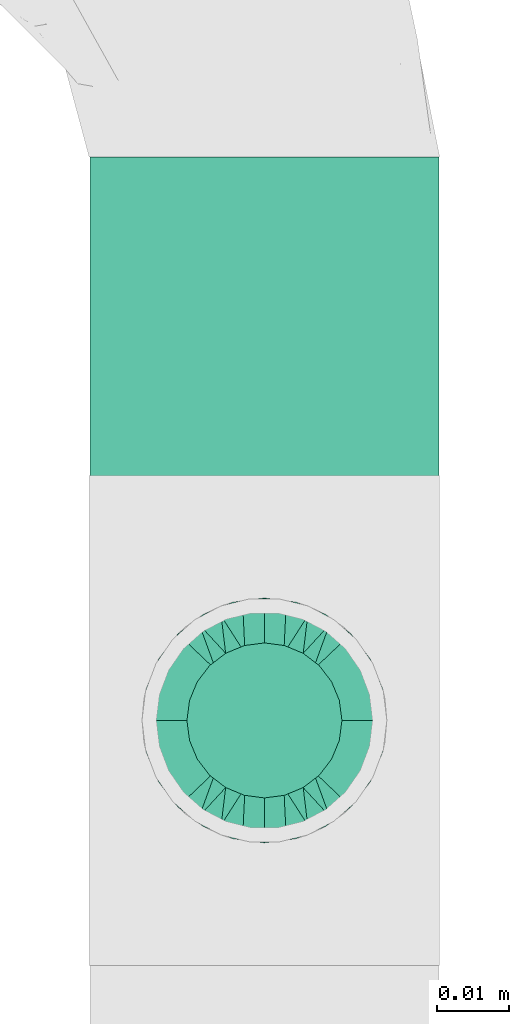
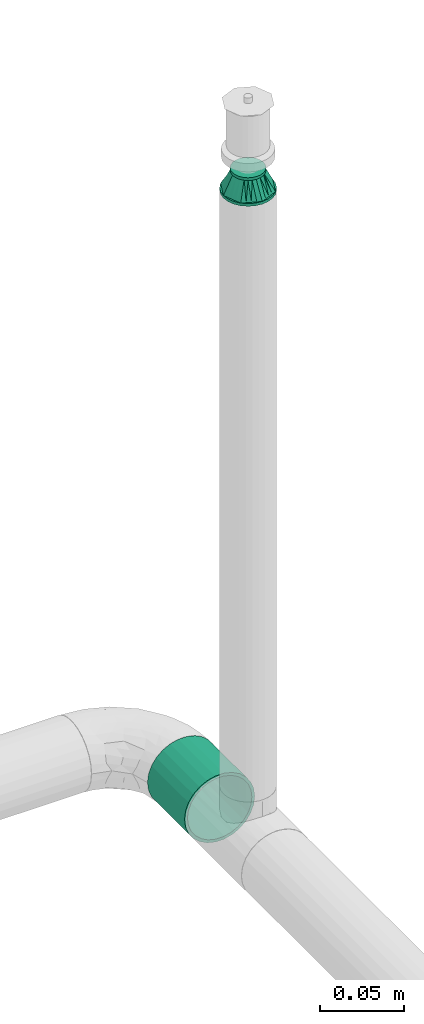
# One storey, part 81 of 157: 1 flow fitting, 1 flow segment.
"""IFC2X3 building model written with IfcOpenShell, lengths in millimetres."""

from ifc_helpers import new_model, entity, si_unit, converted_unit, derived_unit, direction, frame, origin_with_axes, origin_2d_with_axis, place, context, subcontext, project, spatial, hollow_circle, extrude, open_shell, surface_model, source, transform, mapped, type_object, element, save


model = new_model("IFC2X3")

# Units and contexts
model_context = context("Model", 3, precision=0.01, world=frame((0.0, 4.29681676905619e-09, 0.0)), true_north=direction((4.01073788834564e-13, 1.0)))
plan_context = context("Plan", 3, precision=0.01, world=frame((0.0, 4.29681676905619e-09, 0.0)), true_north=direction((4.01073788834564e-13, 1.0)))
body_context = subcontext(model_context, "Body", "Model", "MODEL_VIEW")
ifc_project = project(units=[converted_unit("PLANEANGLEUNIT", "DEGREE", entity("IfcPositiveLengthMeasure", 0.0174532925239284), si_unit("PLANEANGLEUNIT", "RADIAN"), dimensions=[0, 0, 0, 0, 0, 0, 0]), si_unit("AREAUNIT", "SQUARE_METRE"), si_unit("LENGTHUNIT", "METRE", prefix="MILLI"), si_unit("MASSUNIT", "GRAM", prefix="KILO"), si_unit("POWERUNIT", "WATT"), si_unit("PRESSUREUNIT", "PASCAL"), si_unit("FORCEUNIT", "NEWTON", prefix="KILO"), si_unit("ELECTRICCURRENTUNIT", "AMPERE"), si_unit("THERMODYNAMICTEMPERATUREUNIT", "DEGREE_CELSIUS"), si_unit("TIMEUNIT", "SECOND"), si_unit("VOLUMEUNIT", "CUBIC_METRE"), derived_unit("LINEARVELOCITYUNIT", [(si_unit("LENGTHUNIT", "METRE"), 1), (si_unit("TIMEUNIT", "SECOND"), -1)]), derived_unit("VOLUMETRICFLOWRATEUNIT", [(si_unit("VOLUMEUNIT", "CUBIC_METRE"), 1), (si_unit("TIMEUNIT", "SECOND"), -1)]), derived_unit("THERMALTRANSMITTANCEUNIT", [(si_unit("POWERUNIT", "WATT"), 1), (si_unit("THERMODYNAMICTEMPERATUREUNIT", "KELVIN"), -1), (si_unit("AREAUNIT", "SQUARE_METRE"), -1)])], contexts=[model_context, plan_context])

# Site, building, storey
site_placement = place(None, frame((0.0, -4.29681676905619e-09, 0.0), z_axis=(0.0, 0.0, 1.0), x_axis=(1.0, 0.0, 0.0)))
site = spatial("IfcSite", under=ifc_project, at=site_placement, CompositionType="ELEMENT")
building_placement = place(site_placement, frame((0.0, 4.29681676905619e-09, 0.0), z_axis=(0.0, 0.0, 1.0), x_axis=(1.0, 0.0, 0.0)))
building = spatial("IfcBuilding", under=site, at=building_placement, Name="mc-building", CompositionType="ELEMENT")
storey_placement = place(building_placement, frame((0.0, 0.0, 204000.0), z_axis=(0.0, 0.0, 1.0), x_axis=(1.0, 0.0, 0.0)))
storey = spatial("IfcBuildingStorey", under=building, at=storey_placement, Name="Nivå D", CompositionType="ELEMENT", Elevation=204000.0)

# Flow fitting
pipe_fitting_type = type_object("IfcPipeFittingType", Name="magi_pipe_fe_reducer_centric_short_NOR", PredefinedType="TRANSITION")
shared_shape_1 = source(origin_with_axes(), body_context, "Body", "SurfaceModel", [
    surface_model("IfcShellBasedSurfaceModel", [(-2.0, -7.56604, -7.56604), (-2.0, -10.33541, -2.76936), (-2.0, -5.35, -9.26647), (-2.0, 5.35, -9.26647), (-2.0, 10.33541, -2.76936), (-2.0, 7.56604, -7.56604), (12.4, 11.9501, 11.9501), (12.4, 0.0, 16.9), (12.4, 11.9501, -11.9501), (12.4, 16.9, 0.0), (0.0, -10.7, 0.0), (0.0, -5.35, 9.26647), (0.0, -5.35, -9.26647), (0.0, 10.7, 0.0), (12.4, 15.66253, -2.98753), (12.4, 8.96258, -13.18758), (0.0, 6.6875, -6.94985), (12.4, -15.66253, -2.98753), (12.4, -16.9, 0.0), (12.4, 5.97505, -14.42505), (0.0, 5.35, -9.26647), (12.4, 14.42505, -5.97505), (0.0, 8.025, -4.63324), (0.0, 9.3625, -2.31662), (0.0, -9.3625, -2.31662), (0.0, -8.025, -4.63324), (12.4, -14.42505, -5.97505), (12.4, 13.18758, -8.96258), (12.4, -13.18758, -8.96258), (12.4, -11.9501, -11.9501), (0.0, -6.6875, -6.94985), (12.4, -8.96258, -13.18758), (12.4, -5.97505, -14.42505), (12.4, -15.66253, 2.98753), (12.4, -8.96258, 13.18758), (0.0, -6.6875, 6.94985), (12.4, -11.9501, 11.9501), (12.4, 15.66253, 2.98753), (12.4, -5.97505, 14.42505), (12.4, -14.42505, 5.97505), (0.0, -8.025, 4.63324), (0.0, -9.3625, 2.31662), (0.0, 9.3625, 2.31662), (0.0, 8.025, 4.63324), (12.4, 14.42505, 5.97505), (12.4, -13.18758, 8.96258), (12.4, 13.18758, 8.96258), (0.0, 6.6875, 6.94985), (12.4, 8.96258, 13.18758), (0.0, 5.35, 9.26647), (12.4, 5.97505, 14.42505), (14.4, 4.37404, -16.32415), (14.4, 8.45, -14.63583), (14.4, 11.9501, -11.9501), (14.4, -8.45, -14.63583), (14.4, 16.32415, -4.37404), (14.4, 16.32415, 4.37404), (14.4, 14.63583, -8.45), (14.4, 0.0, -16.9), (14.4, -4.37404, -16.32415), (14.4, -11.9501, -11.9501), (14.4, -16.32415, -4.37404), (14.4, -14.63583, -8.45), (14.4, -16.32415, 4.37404), (14.4, 16.9, 0.0), (14.4, 14.63583, 8.45), (14.4, 11.9501, 11.9501), (14.4, 4.37404, 16.32415), (14.4, 8.45, 14.63583), (14.4, 0.0, 16.9), (14.4, -14.63583, 8.45), (14.4, -16.9, 0.0), (14.4, -8.45, 14.63583), (14.4, -11.9501, 11.9501), (14.4, -4.37404, 16.32415), (12.4, 4.37404, 16.32415), (12.4, -14.63583, 8.45), (12.4, 16.32415, 4.37404), (12.4, 8.45, 14.63583), (12.4, 14.63583, 8.45), (12.4, -8.45, 14.63583), (12.4, -4.37404, 16.32415), (12.4, -16.32415, 4.37404), (12.4, -16.32415, -4.37404), (12.4, -8.45, -14.63583), (12.4, 16.32415, -4.37404), (12.4, 14.63583, -8.45), (12.4, 8.45, -14.63583), (12.4, 4.37404, -16.32415), (12.4, 0.0, -16.9), (12.4, -14.63583, -8.45), (12.4, -4.37404, -16.32415), (-2.0, 2.76936, 10.33541), (-2.0, 0.0, 10.7), (-2.0, 5.35, 9.26647), (-2.0, 7.56604, 7.56604), (-2.0, 9.26647, 5.35), (-2.0, 10.33541, 2.76936), (-2.0, -10.33541, 2.76936), (-2.0, -2.76936, 10.33541), (-2.0, -7.56604, 7.56604), (-2.0, -5.35, 9.26647), (-2.0, -9.26647, 5.35), (-2.0, -10.7, 0.0), (-2.0, 9.26647, -5.35), (-2.0, 2.76936, -10.33541), (-2.0, -9.26647, -5.35), (-2.0, 0.0, -10.7), (-2.0, -2.76936, -10.33541), (-2.0, 10.7, 0.0), (0.0, 0.0, -10.7), (0.0, 2.76936, -10.33541), (0.0, 10.33541, -2.76936), (0.0, 7.56604, -7.56604), (0.0, -10.33541, -2.76936), (0.0, 9.26647, -5.35), (0.0, 0.0, 10.7), (0.0, -2.76936, -10.33541), (0.0, -7.56604, -7.56604), (0.0, -9.26647, -5.35), (0.0, 10.33541, 2.76936), (0.0, 9.26647, 5.35), (0.0, 7.56604, 7.56604), (0.0, 2.76936, 10.33541), (0.0, -7.56604, 7.56604), (0.0, -10.33541, 2.76936), (0.0, -9.26647, 5.35), (0.0, -2.76936, 10.33541), (0.0, 2.675, -9.26647), (0.0, -2.675, -9.26647), (12.4, 2.98753, -15.66253), (0.0, 0.0, -9.26647), (12.4, -2.98753, -15.66253), (0.0, -2.675, 9.26647), (0.0, 2.675, 9.26647), (12.4, -2.98753, 15.66253), (0.0, 0.0, 9.26647), (12.4, 2.98753, 15.66253)], [open_shell([[[0, 1, 2]], [[3, 4, 5]], [[6, 7, 8]], [[8, 9, 6]], [[10, 11, 12]], [[13, 9, 14]], [[15, 16, 8]], [[17, 18, 10]], [[15, 19, 20]], [[21, 22, 23]], [[24, 25, 26]], [[22, 21, 27]], [[28, 26, 25]], [[29, 30, 31]], [[12, 32, 31]], [[10, 18, 33]], [[34, 35, 36]], [[37, 9, 13]], [[34, 38, 11]], [[39, 40, 41]], [[42, 43, 44]], [[40, 39, 45]], [[46, 44, 43]], [[6, 47, 48]], [[49, 50, 48]], [[51, 52, 53]], [[54, 51, 53]], [[53, 55, 56]], [[55, 53, 57]], [[53, 56, 54]], [[58, 54, 59]], [[58, 51, 54]], [[60, 61, 62]], [[61, 60, 54]], [[54, 63, 61]], [[56, 55, 64]], [[56, 65, 66]], [[56, 66, 67]], [[67, 63, 54]], [[67, 66, 68]], [[63, 67, 69]], [[69, 70, 63]], [[71, 61, 63]], [[70, 72, 73]], [[70, 69, 72]], [[72, 69, 74]], [[54, 56, 67]], [[75, 76, 7]], [[77, 75, 78]], [[6, 79, 77]], [[6, 77, 78]], [[76, 75, 77]], [[80, 76, 36]], [[80, 81, 7]], [[7, 76, 80]], [[82, 76, 77]], [[82, 83, 18]], [[82, 77, 84]], [[77, 85, 8]], [[8, 85, 86]], [[8, 87, 88]], [[84, 77, 8]], [[88, 89, 8]], [[83, 29, 90]], [[29, 83, 84]], [[84, 89, 91]], [[83, 82, 84]], [[8, 89, 84]], [[85, 77, 9]], [[83, 61, 18]], [[90, 62, 83]], [[54, 29, 84]], [[90, 29, 60]], [[59, 84, 91]], [[83, 62, 61]], [[61, 71, 18]], [[59, 54, 84]], [[60, 29, 54]], [[60, 62, 90]], [[58, 59, 91]], [[91, 89, 58]], [[88, 51, 89]], [[87, 52, 88]], [[57, 8, 86]], [[87, 8, 53]], [[55, 86, 85]], [[87, 53, 52]], [[52, 51, 88]], [[64, 55, 85]], [[57, 86, 55]], [[57, 53, 8]], [[9, 64, 85]], [[89, 51, 58]], [[77, 56, 9]], [[79, 65, 77]], [[68, 6, 78]], [[79, 6, 66]], [[67, 78, 75]], [[77, 65, 56]], [[56, 64, 9]], [[67, 68, 78]], [[66, 6, 68]], [[66, 65, 79]], [[69, 67, 75]], [[75, 7, 69]], [[81, 74, 7]], [[80, 72, 81]], [[70, 36, 76]], [[80, 36, 73]], [[63, 76, 82]], [[80, 73, 72]], [[72, 74, 81]], [[71, 63, 82]], [[70, 76, 63]], [[70, 73, 36]], [[18, 71, 82]], [[7, 74, 69]], [[92, 1, 93]], [[94, 1, 92]], [[95, 96, 97]], [[95, 97, 94]], [[98, 93, 1]], [[99, 100, 101]], [[99, 93, 100]], [[100, 98, 102]], [[93, 98, 100]], [[98, 1, 103]], [[94, 97, 1]], [[1, 97, 4]], [[5, 4, 104]], [[4, 3, 1]], [[105, 1, 3]], [[1, 0, 106]], [[2, 107, 108]], [[2, 1, 105]], [[105, 107, 2]], [[4, 97, 109]], [[20, 110, 111]], [[112, 20, 113]], [[114, 20, 112]], [[112, 113, 115]], [[116, 114, 112]], [[110, 12, 117]], [[110, 20, 12]], [[118, 114, 119]], [[114, 118, 12]], [[20, 114, 12]], [[112, 13, 120]], [[120, 121, 122]], [[120, 122, 123]], [[116, 112, 123]], [[123, 122, 49]], [[116, 124, 114]], [[125, 124, 126]], [[10, 114, 125]], [[124, 127, 11]], [[125, 114, 124]], [[127, 124, 116]], [[123, 112, 120]], [[1, 114, 103]], [[106, 119, 1]], [[12, 0, 2]], [[106, 0, 118]], [[117, 2, 108]], [[1, 119, 114]], [[114, 10, 103]], [[117, 12, 2]], [[118, 0, 12]], [[118, 119, 106]], [[110, 117, 108]], [[108, 107, 110]], [[105, 111, 107]], [[3, 20, 105]], [[115, 5, 104]], [[3, 5, 113]], [[112, 104, 4]], [[3, 113, 20]], [[20, 111, 105]], [[13, 112, 4]], [[115, 104, 112]], [[115, 113, 5]], [[109, 13, 4]], [[107, 111, 110]], [[97, 120, 109]], [[96, 121, 97]], [[49, 95, 94]], [[96, 95, 122]], [[123, 94, 92]], [[97, 121, 120]], [[120, 13, 109]], [[123, 49, 94]], [[122, 95, 49]], [[122, 121, 96]], [[116, 123, 92]], [[92, 93, 116]], [[99, 127, 93]], [[101, 11, 99]], [[126, 100, 102]], [[101, 100, 124]], [[125, 102, 98]], [[101, 124, 11]], [[11, 127, 99]], [[10, 125, 98]], [[126, 102, 125]], [[126, 124, 100]], [[103, 10, 98]], [[93, 127, 116]], [[18, 7, 36]], [[18, 29, 8]], [[89, 8, 29]], [[18, 8, 7]], [[13, 11, 49]], [[13, 20, 12]], [[13, 12, 11]], [[24, 26, 17]], [[10, 24, 17]], [[16, 15, 20]], [[30, 12, 31]], [[23, 14, 21]], [[19, 128, 20]], [[27, 8, 16]], [[32, 12, 129]], [[30, 28, 25]], [[130, 131, 128]], [[129, 132, 32]], [[16, 22, 27]], [[13, 14, 23]], [[128, 19, 130]], [[130, 89, 131]], [[131, 132, 129]], [[89, 132, 131]], [[28, 30, 29]], [[42, 44, 37]], [[13, 42, 37]], [[35, 34, 11]], [[47, 49, 48]], [[41, 33, 39]], [[38, 133, 11]], [[45, 36, 35]], [[50, 49, 134]], [[47, 46, 43]], [[135, 136, 133]], [[134, 137, 50]], [[35, 40, 45]], [[10, 33, 41]], [[133, 38, 135]], [[135, 7, 136]], [[136, 137, 134]], [[7, 137, 136]], [[46, 47, 6]]])]),
])
flow_fitting_placement = place(storey_placement, frame((521635.35, 413913.20018, 3172.54800000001), z_axis=(0.0, 1.0, 0.0), x_axis=(0.0, 0.0, -1.0)))
element("IfcFlowFitting", 1, at=flow_fitting_placement, inside=storey, type_object=pipe_fitting_type, Name="magi_pipe_fe_reducer_centric_short_NOR", context=body_context, shape_type="MappedRepresentation", body=[
    mapped(shared_shape_1, transform((0.0, 0.0, 0.0), scale=1.0)),
])

# Flow segment
pipe_segment_type = type_object("IfcPipeSegmentType", Name="Stålrør normaltykke", PredefinedType="RIGIDSEGMENT")
shared_shape_2 = source(origin_with_axes(), body_context, "Body", "SweptSolid", [
    extrude(hollow_circle(Radius=24.1, WallThickness=2.0, at=origin_2d_with_axis()), frame((0.0, 0.0, 0.0), z_axis=(1.0, 0.0, 0.0), x_axis=(0.0, 1.0, 0.0)), (0.0, 0.0, 1.0), 44.0),
])
flow_segment_placement = place(storey_placement, frame((521635.35, 413990.95389, 2690.0), z_axis=(0.0, 0.0, 1.0), x_axis=(0.0, -1.0, 0.0)))
element("IfcFlowSegment", 2, at=flow_segment_placement, inside=storey, type_object=pipe_segment_type, Name="Stålrør normaltykke", context=body_context, shape_type="MappedRepresentation", body=[
    mapped(shared_shape_2, transform((0.0, 0.0, 0.0), scale=1.0)),
])

save(model, "model.ifc")
